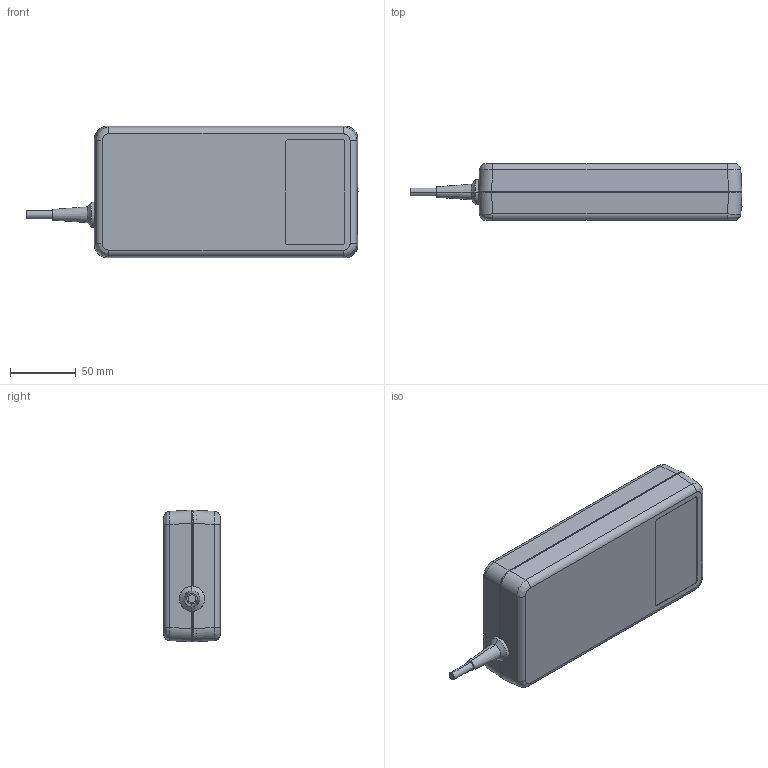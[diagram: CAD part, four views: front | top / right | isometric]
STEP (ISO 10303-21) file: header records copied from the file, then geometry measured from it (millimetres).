
FILE_DESCRIPTION((''),'2;1');
FILE_NAME('MEA-250A24C-H-A_ASM','2018-02-07T',('TERRY.LIN'),(''),'PRO/ENGINEER BY PARAMETRIC TECHNOLOGY CORPORATION, 2015240','PRO/ENGINEER BY PARAMETRIC TECHNOLOGY CORPORATION, 2015240','');
FILE_SCHEMA(('CONFIG_CONTROL_DESIGN'));
Length unit declared in the file: millimetre
Products named in the file (6): COVER_CASE; C14-WATERPROOF; CHASSIS_CASE; SR; LED_2; MEA-250A24C-H-A_ASM
Assembly tree (5 placements, depth 2):
  MEA-250A24C-H-A_ASM
    COVER_CASE
    C14-WATERPROOF
    CHASSIS_CASE
    SR
    LED_2
Bounding box: 252.05 x 43 x 99.95 mm (x, y, z)
Volume: 176295.3 mm3; surface area: 142501.7 mm2
Topology: 5 solids, 5 shells, 958 faces, 2596 edges, 1668 vertices
Faces by surface type: plane 602, cylinder 215, bspline 107, torus 14, cone 8, extrusion 8, sphere 4
Entity records: 34827 total; most frequent: CARTESIAN_POINT 11583, ORIENTED_EDGE 5184, DIRECTION 4193, EDGE_CURVE 2592, VECTOR 1851, LINE 1843, VERTEX_POINT 1668, AXIS2_PLACEMENT_3D 1171
